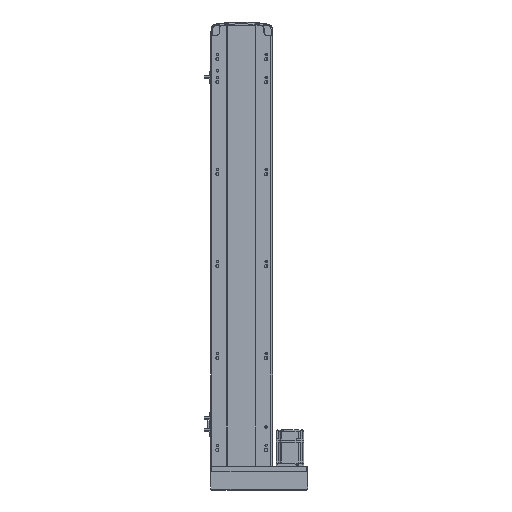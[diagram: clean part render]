
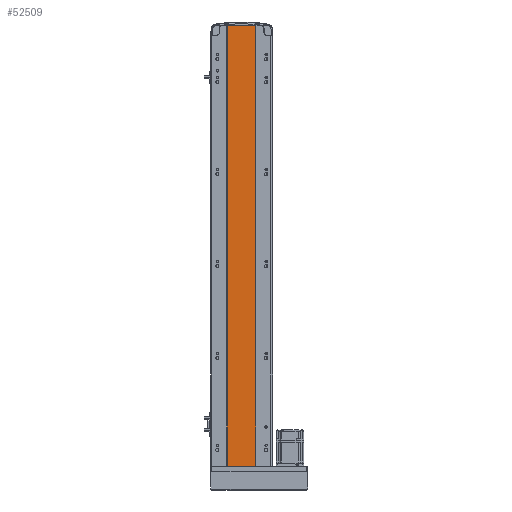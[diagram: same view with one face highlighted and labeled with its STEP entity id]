
A CAD part, front view. The second image highlights one B-rep face of the part: STEP entity #52509.
In plain terms, the highlighted planar face has unit normal (0, -1, 0).
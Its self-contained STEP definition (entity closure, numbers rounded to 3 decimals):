
#19 = VERTEX_POINT ( 'NONE', #53572 ) ;
#965 = VERTEX_POINT ( 'NONE', #49228 ) ;
#2921 = VERTEX_POINT ( 'NONE', #9983 ) ;
#3570 = DIRECTION ( 'NONE',  ( 0., 0., -1. ) ) ;
#4456 = CARTESIAN_POINT ( 'NONE',  ( 30., 1., 959. ) ) ;
#4541 = AXIS2_PLACEMENT_3D ( 'NONE', #57510, #8189, #12872 ) ;
#6087 = EDGE_CURVE ( 'NONE', #2921, #19, #31352, .T. ) ;
#8189 = DIRECTION ( 'NONE',  ( 0., 1., 0. ) ) ;
#9983 = CARTESIAN_POINT ( 'NONE',  ( -32., 1., 0. ) ) ;
#12872 = DIRECTION ( 'NONE',  ( -1., 0., 0. ) ) ;
#13495 = CARTESIAN_POINT ( 'NONE',  ( -32., 1., 959. ) ) ;
#14432 = ORIENTED_EDGE ( 'NONE', *, *, #42739, .F. ) ;
#15075 = ORIENTED_EDGE ( 'NONE', *, *, #42182, .F. ) ;
#21095 = PLANE ( 'NONE',  #4541 ) ;
#22508 = DIRECTION ( 'NONE',  ( 0., 0., -1. ) ) ;
#23127 = VERTEX_POINT ( 'NONE', #4456 ) ;
#23626 = VECTOR ( 'NONE', #47114, 1000. ) ;
#27942 = VECTOR ( 'NONE', #22508, 1000. ) ;
#29807 = CARTESIAN_POINT ( 'NONE',  ( 30., 1., 959. ) ) ;
#30462 = LINE ( 'NONE', #34565, #50070 ) ;
#31352 = LINE ( 'NONE', #47313, #23626 ) ;
#32339 = ORIENTED_EDGE ( 'NONE', *, *, #52919, .T. ) ;
#34556 = ORIENTED_EDGE ( 'NONE', *, *, #6087, .T. ) ;
#34565 = CARTESIAN_POINT ( 'NONE',  ( -32., 1., 959. ) ) ;
#35239 = EDGE_LOOP ( 'NONE', ( #34556, #14432, #15075, #32339 ) ) ;
#39201 = LINE ( 'NONE', #13495, #27942 ) ;
#42182 = EDGE_CURVE ( 'NONE', #965, #23127, #30462, .T. ) ;
#42739 = EDGE_CURVE ( 'NONE', #23127, #19, #42902, .T. ) ;
#42902 = LINE ( 'NONE', #29807, #52705 ) ;
#47114 = DIRECTION ( 'NONE',  ( 1., 0., 0. ) ) ;
#47313 = CARTESIAN_POINT ( 'NONE',  ( -32., 1., 0. ) ) ;
#47879 = DIRECTION ( 'NONE',  ( 1., 0., 0. ) ) ;
#49228 = CARTESIAN_POINT ( 'NONE',  ( -32., 1., 959. ) ) ;
#50070 = VECTOR ( 'NONE', #47879, 1000. ) ;
#51799 = FACE_OUTER_BOUND ( 'NONE', #35239, .T. ) ;
#52509 = ADVANCED_FACE ( 'NONE', ( #51799 ), #21095, .F. ) ;
#52705 = VECTOR ( 'NONE', #3570, 1000. ) ;
#52919 = EDGE_CURVE ( 'NONE', #965, #2921, #39201, .T. ) ;
#53572 = CARTESIAN_POINT ( 'NONE',  ( 30., 1., 0. ) ) ;
#57510 = CARTESIAN_POINT ( 'NONE',  ( -32., 1., 959. ) ) ;
